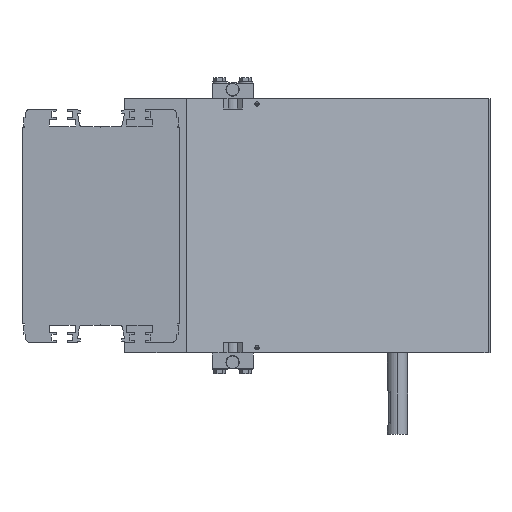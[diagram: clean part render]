
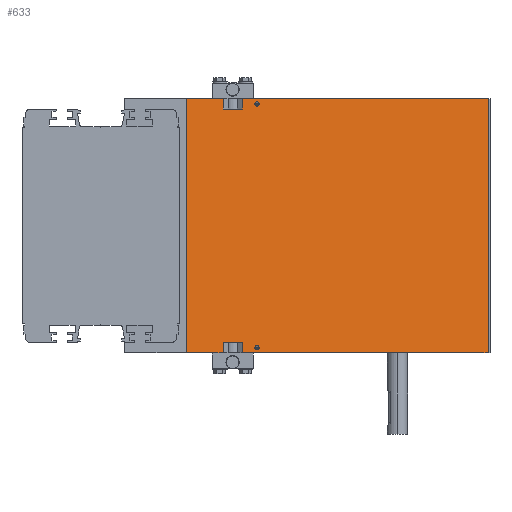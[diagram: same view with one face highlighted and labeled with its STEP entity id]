
A CAD part, left-side view. The second image highlights one B-rep face of the part: STEP entity #633.
In plain terms, the highlighted planar face has unit normal (-0.966, -0.259, 0).
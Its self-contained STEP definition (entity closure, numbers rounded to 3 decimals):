
#76 = DIRECTION ( 'NONE',  ( 0.259, -0.966, 0. ) ) ;
#125 = CARTESIAN_POINT ( 'NONE',  ( -180.442, -118.67, 123.5 ) ) ;
#299 = VERTEX_POINT ( 'NONE', #11160 ) ;
#533 = EDGE_CURVE ( 'NONE', #20599, #5540, #19539, .T. ) ;
#633 = ADVANCED_FACE ( 'NONE', ( #20922, #16727, #1791 ), #28792, .F. ) ;
#680 = AXIS2_PLACEMENT_3D ( 'NONE', #27027, #13273, #15899 ) ;
#1053 = CARTESIAN_POINT ( 'NONE',  ( -171.624, -151.581, 118.5 ) ) ;
#1153 = DIRECTION ( 'NONE',  ( -0.966, -0.259, 0. ) ) ;
#1210 = LINE ( 'NONE', #19028, #13685 ) ;
#1236 = CARTESIAN_POINT ( 'NONE',  ( -175.442, -137.33, -123.5 ) ) ;
#1361 = DIRECTION ( 'NONE',  ( 0., 0., -1. ) ) ;
#1431 = ORIENTED_EDGE ( 'NONE', *, *, #2425, .F. ) ;
#1791 = FACE_OUTER_BOUND ( 'NONE', #12675, .T. ) ;
#2021 = DIRECTION ( 'NONE',  ( 0.966, 0.259, 0. ) ) ;
#2143 = EDGE_CURVE ( 'NONE', #3412, #17089, #15835, .T. ) ;
#2382 = CARTESIAN_POINT ( 'NONE',  ( -171.624, -151.581, 118.5 ) ) ;
#2425 = EDGE_CURVE ( 'NONE', #17089, #5540, #7413, .T. ) ;
#2549 = EDGE_CURVE ( 'NONE', #6036, #3412, #1210, .T. ) ;
#2793 = EDGE_CURVE ( 'NONE', #19502, #4770, #16816, .T. ) ;
#2923 = CIRCLE ( 'NONE', #10901, 2.1 ) ;
#3012 = CARTESIAN_POINT ( 'NONE',  ( -180.442, -118.67, 113.5 ) ) ;
#3099 = CARTESIAN_POINT ( 'NONE',  ( -175.442, -137.33, 113.5 ) ) ;
#3268 = ORIENTED_EDGE ( 'NONE', *, *, #21140, .T. ) ;
#3312 = LINE ( 'NONE', #17931, #23500 ) ;
#3412 = VERTEX_POINT ( 'NONE', #12542 ) ;
#3487 = ORIENTED_EDGE ( 'NONE', *, *, #2143, .F. ) ;
#3981 = VERTEX_POINT ( 'NONE', #25779 ) ;
#4540 = EDGE_CURVE ( 'NONE', #3981, #4770, #18336, .T. ) ;
#4698 = ORIENTED_EDGE ( 'NONE', *, *, #23946, .T. ) ;
#4770 = VERTEX_POINT ( 'NONE', #22405 ) ;
#5139 = CARTESIAN_POINT ( 'NONE',  ( -180.442, -118.67, -113.5 ) ) ;
#5540 = VERTEX_POINT ( 'NONE', #24091 ) ;
#5713 = EDGE_CURVE ( 'NONE', #10958, #21971, #2923, .T. ) ;
#5925 = VECTOR ( 'NONE', #27121, 1000. ) ;
#6036 = VERTEX_POINT ( 'NONE', #5139 ) ;
#6165 = AXIS2_PLACEMENT_3D ( 'NONE', #1053, #1153, #12473 ) ;
#6493 = EDGE_LOOP ( 'NONE', ( #18880, #27054 ) ) ;
#6885 = EDGE_CURVE ( 'NONE', #28484, #13255, #10019, .T. ) ;
#7413 = LINE ( 'NONE', #11645, #27660 ) ;
#7733 = VECTOR ( 'NONE', #22494, 1000. ) ;
#7766 = DIRECTION ( 'NONE',  ( -0.259, 0.966, 0. ) ) ;
#8070 = LINE ( 'NONE', #12954, #7733 ) ;
#8456 = ORIENTED_EDGE ( 'NONE', *, *, #6885, .F. ) ;
#8791 = CARTESIAN_POINT ( 'NONE',  ( -190., -83., -123.5 ) ) ;
#9310 = VECTOR ( 'NONE', #7766, 1000. ) ;
#9830 = ORIENTED_EDGE ( 'NONE', *, *, #19416, .F. ) ;
#9924 = VECTOR ( 'NONE', #10939, 1000. ) ;
#10006 = AXIS2_PLACEMENT_3D ( 'NONE', #22165, #2021, #26637 ) ;
#10019 = LINE ( 'NONE', #16815, #9310 ) ;
#10136 = CARTESIAN_POINT ( 'NONE',  ( -190., -83., 123.5 ) ) ;
#10901 = AXIS2_PLACEMENT_3D ( 'NONE', #2382, #13367, #76 ) ;
#10939 = DIRECTION ( 'NONE',  ( -0.259, 0.966, 0. ) ) ;
#10958 = VERTEX_POINT ( 'NONE', #20865 ) ;
#11160 = CARTESIAN_POINT ( 'NONE',  ( -175.442, -137.33, -113.5 ) ) ;
#11322 = DIRECTION ( 'NONE',  ( 0., 0., 1. ) ) ;
#11645 = CARTESIAN_POINT ( 'NONE',  ( -190., -83., -123.5 ) ) ;
#11739 = DIRECTION ( 'NONE',  ( 0., 0., 1. ) ) ;
#11974 = EDGE_CURVE ( 'NONE', #17083, #24723, #18923, .T. ) ;
#12385 = ORIENTED_EDGE ( 'NONE', *, *, #533, .T. ) ;
#12473 = DIRECTION ( 'NONE',  ( 0.259, -0.966, 0. ) ) ;
#12542 = CARTESIAN_POINT ( 'NONE',  ( -180.442, -118.67, -123.5 ) ) ;
#12559 = CARTESIAN_POINT ( 'NONE',  ( -171.08, -153.609, 118.5 ) ) ;
#12564 = EDGE_CURVE ( 'NONE', #299, #13255, #8070, .T. ) ;
#12654 = CIRCLE ( 'NONE', #6165, 2.1 ) ;
#12675 = EDGE_LOOP ( 'NONE', ( #3487, #24109, #20605, #22024, #8456, #4698, #22359, #28058, #15747, #3268, #12385, #1431 ) ) ;
#12761 = CARTESIAN_POINT ( 'NONE',  ( -172.167, -149.552, -118.5 ) ) ;
#12954 = CARTESIAN_POINT ( 'NONE',  ( -175.442, -137.33, -113.5 ) ) ;
#12981 = VECTOR ( 'NONE', #15361, 1000. ) ;
#13255 = VERTEX_POINT ( 'NONE', #1236 ) ;
#13273 = DIRECTION ( 'NONE',  ( -0.966, -0.259, 0. ) ) ;
#13367 = DIRECTION ( 'NONE',  ( -0.966, -0.259, 0. ) ) ;
#13685 = VECTOR ( 'NONE', #1361, 1000. ) ;
#14562 = CARTESIAN_POINT ( 'NONE',  ( -171.08, -153.609, -118.5 ) ) ;
#15189 = VECTOR ( 'NONE', #25733, 1000. ) ;
#15361 = DIRECTION ( 'NONE',  ( 0.259, -0.966, 0. ) ) ;
#15364 = EDGE_CURVE ( 'NONE', #17962, #19502, #23126, .T. ) ;
#15608 = ORIENTED_EDGE ( 'NONE', *, *, #11974, .F. ) ;
#15747 = ORIENTED_EDGE ( 'NONE', *, *, #15364, .F. ) ;
#15835 = LINE ( 'NONE', #8791, #9924 ) ;
#15899 = DIRECTION ( 'NONE',  ( 0.259, -0.966, 0. ) ) ;
#16113 = DIRECTION ( 'NONE',  ( 0., 0., 1. ) ) ;
#16727 = FACE_BOUND ( 'NONE', #6493, .T. ) ;
#16815 = CARTESIAN_POINT ( 'NONE',  ( -190., -83., -123.5 ) ) ;
#16816 = LINE ( 'NONE', #3099, #28646 ) ;
#17083 = VERTEX_POINT ( 'NONE', #12761 ) ;
#17089 = VERTEX_POINT ( 'NONE', #28357 ) ;
#17533 = AXIS2_PLACEMENT_3D ( 'NONE', #20546, #18212, #24647 ) ;
#17857 = EDGE_CURVE ( 'NONE', #6036, #299, #20942, .T. ) ;
#17931 = CARTESIAN_POINT ( 'NONE',  ( -111.473, -376.068, 123.5 ) ) ;
#17962 = VERTEX_POINT ( 'NONE', #3012 ) ;
#18168 = CARTESIAN_POINT ( 'NONE',  ( -198.022, -53.06, -113.5 ) ) ;
#18212 = DIRECTION ( 'NONE',  ( -0.966, -0.259, 0. ) ) ;
#18336 = LINE ( 'NONE', #10136, #15189 ) ;
#18880 = ORIENTED_EDGE ( 'NONE', *, *, #28189, .F. ) ;
#18923 = CIRCLE ( 'NONE', #17533, 2.1 ) ;
#19028 = CARTESIAN_POINT ( 'NONE',  ( -180.442, -118.67, -113.5 ) ) ;
#19160 = VECTOR ( 'NONE', #20202, 1000. ) ;
#19166 = CIRCLE ( 'NONE', #680, 2.1 ) ;
#19416 = EDGE_CURVE ( 'NONE', #24723, #17083, #19166, .T. ) ;
#19502 = VERTEX_POINT ( 'NONE', #22933 ) ;
#19539 = LINE ( 'NONE', #20364, #5925 ) ;
#19938 = CARTESIAN_POINT ( 'NONE',  ( -198.022, -53.06, 113.5 ) ) ;
#20202 = DIRECTION ( 'NONE',  ( 0.259, -0.966, 0. ) ) ;
#20364 = CARTESIAN_POINT ( 'NONE',  ( -190., -83., 123.5 ) ) ;
#20546 = CARTESIAN_POINT ( 'NONE',  ( -171.624, -151.581, -118.5 ) ) ;
#20599 = VERTEX_POINT ( 'NONE', #125 ) ;
#20605 = ORIENTED_EDGE ( 'NONE', *, *, #17857, .T. ) ;
#20865 = CARTESIAN_POINT ( 'NONE',  ( -172.167, -149.552, 118.5 ) ) ;
#20922 = FACE_BOUND ( 'NONE', #27779, .T. ) ;
#20942 = LINE ( 'NONE', #18168, #19160 ) ;
#21140 = EDGE_CURVE ( 'NONE', #17962, #20599, #26808, .T. ) ;
#21971 = VERTEX_POINT ( 'NONE', #12559 ) ;
#22024 = ORIENTED_EDGE ( 'NONE', *, *, #12564, .T. ) ;
#22165 = CARTESIAN_POINT ( 'NONE',  ( -190., -83., -123.5 ) ) ;
#22359 = ORIENTED_EDGE ( 'NONE', *, *, #4540, .T. ) ;
#22405 = CARTESIAN_POINT ( 'NONE',  ( -175.442, -137.33, 123.5 ) ) ;
#22494 = DIRECTION ( 'NONE',  ( 0., 0., -1. ) ) ;
#22933 = CARTESIAN_POINT ( 'NONE',  ( -175.442, -137.33, 113.5 ) ) ;
#23126 = LINE ( 'NONE', #19938, #12981 ) ;
#23500 = VECTOR ( 'NONE', #11322, 1000. ) ;
#23946 = EDGE_CURVE ( 'NONE', #28484, #3981, #3312, .T. ) ;
#24091 = CARTESIAN_POINT ( 'NONE',  ( -190., -83., 123.5 ) ) ;
#24109 = ORIENTED_EDGE ( 'NONE', *, *, #2549, .F. ) ;
#24285 = CARTESIAN_POINT ( 'NONE',  ( -180.442, -118.67, 113.5 ) ) ;
#24647 = DIRECTION ( 'NONE',  ( 0.259, -0.966, 0. ) ) ;
#24713 = VECTOR ( 'NONE', #11739, 1000. ) ;
#24723 = VERTEX_POINT ( 'NONE', #14562 ) ;
#24897 = CARTESIAN_POINT ( 'NONE',  ( -111.473, -376.068, -123.5 ) ) ;
#25398 = DIRECTION ( 'NONE',  ( 0., 0., 1. ) ) ;
#25733 = DIRECTION ( 'NONE',  ( -0.259, 0.966, 0. ) ) ;
#25779 = CARTESIAN_POINT ( 'NONE',  ( -111.473, -376.068, 123.5 ) ) ;
#26637 = DIRECTION ( 'NONE',  ( -0.259, 0.966, 0. ) ) ;
#26808 = LINE ( 'NONE', #24285, #24713 ) ;
#27027 = CARTESIAN_POINT ( 'NONE',  ( -171.624, -151.581, -118.5 ) ) ;
#27054 = ORIENTED_EDGE ( 'NONE', *, *, #5713, .F. ) ;
#27121 = DIRECTION ( 'NONE',  ( -0.259, 0.966, 0. ) ) ;
#27660 = VECTOR ( 'NONE', #16113, 1000. ) ;
#27779 = EDGE_LOOP ( 'NONE', ( #9830, #15608 ) ) ;
#28058 = ORIENTED_EDGE ( 'NONE', *, *, #2793, .F. ) ;
#28189 = EDGE_CURVE ( 'NONE', #21971, #10958, #12654, .T. ) ;
#28357 = CARTESIAN_POINT ( 'NONE',  ( -190., -83., -123.5 ) ) ;
#28484 = VERTEX_POINT ( 'NONE', #24897 ) ;
#28646 = VECTOR ( 'NONE', #25398, 1000. ) ;
#28792 = PLANE ( 'NONE',  #10006 ) ;
